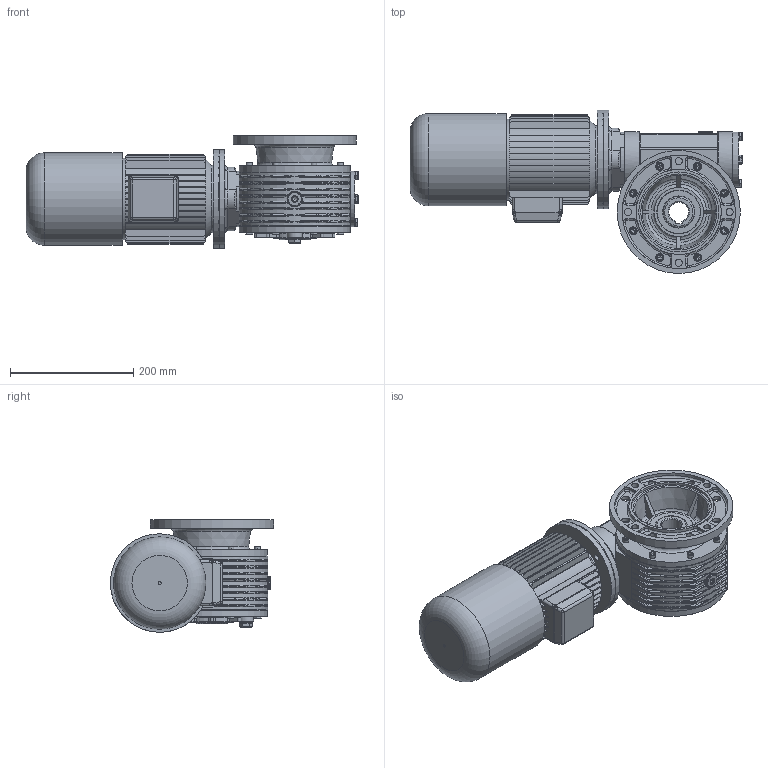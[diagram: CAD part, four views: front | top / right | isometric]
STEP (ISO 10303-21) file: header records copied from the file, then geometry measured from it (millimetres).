
FILE_DESCRIPTION((''),'2;1');
FILE_NAME('Y:\Archivi Inventor\Prog_01\GRAND_40\figurini\MRV40_SITO\71_AUTOFRENANTE\MRV40_F1_71_B5.stp','2013-02-06T11:39:49',('tech3'),(''),'Autodesk Inventor 2013','Autodesk Inventor 2013','');
FILE_SCHEMA(('AUTOMOTIVE_DESIGN { 1 0 10303 214 1 1 1 1 }'));
Length unit declared in the file: millimetre
Products named in the file (20): MRV40_71_B5; MRV40 figurino; 0104001.A0 figurino; 0104009.A0 figurino; 0104028; 0104029; fig_mozzo corona. MRV-RV40cusc_conici; PARAOLIO 35x47x8; PARAOLIO 50x70x10; Guarnizione 3_8 GAS; Tappo 3_8 GAS_esagn_incsst; UNI 5931  M 8 x  25; FIG_0104002; FIG_0104003; DIN EN ISO 4762 M6 x 20; Tappo3_8 GAS; UNI 5739  M6 x 20; UNI 5739 M8 x 20; 0104006; motori B5 brake 71
Assembly tree (45 placements, depth 3):
  MRV40_71_B5
    MRV40 figurino
      0104001.A0 figurino
      0104009.A0 figurino
      0104028  x2
      0104029  x2
      fig_mozzo corona. MRV-RV40cusc_conici
      PARAOLIO 35x47x8
      PARAOLIO 50x70x10  x2
      Guarnizione 3_8 GAS  x3
      Tappo 3_8 GAS_esagn_incsst  x2
      UNI 5931  M 8 x  25  x4
      FIG_0104002
      FIG_0104003
      DIN EN ISO 4762 M6 x 20  x8
      Tappo3_8 GAS
      UNI 5739  M6 x 20  x8
      UNI 5739 M8 x 20  x4
    0104006
    motori B5 brake 71
Bounding box: 539.1 x 265 x 182.9 mm (x, y, z)
Volume: 7002413.6 mm3; surface area: 961300.5 mm2
Topology: 45 solids, 45 shells, 1950 faces, 4715 edges, 2854 vertices
Faces by surface type: plane 881, cylinder 590, bspline 155, torus 153, cone 151, sphere 20
Full cylindrical faces by diameter (mm): 2 x2, 4.917 x16, 5 x1, 6 x16, 6.5 x32, 8 x10, 8.5 x12, 8.75 x4, 8.88 x8, 9 x4, 9.5 x4, 10 x8, 11.5 x4, 11.63 x4, 13 x12, 13.046 x1, 14 x1, 14.95 x3, 16.3 x3, 16.5 x2, 22 x6, 25 x2, 39.605 x1, 43.5 x1, 47 x2, 50 x1, 55 x1, 56.381 x2, 62 x3, 65 x2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
Entity records: 53931 total; most frequent: CARTESIAN_POINT 17134, DIRECTION 7590, ORIENTED_EDGE 7168, EDGE_CURVE 3584, AXIS2_PLACEMENT_3D 2999, VERTEX_POINT 2292, EDGE_LOOP 1916, VECTOR 1592
